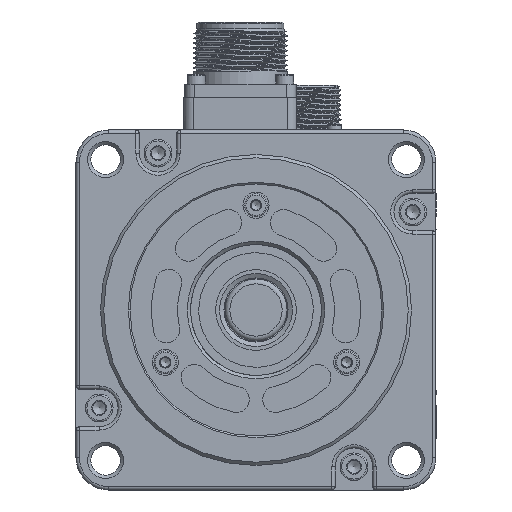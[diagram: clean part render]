
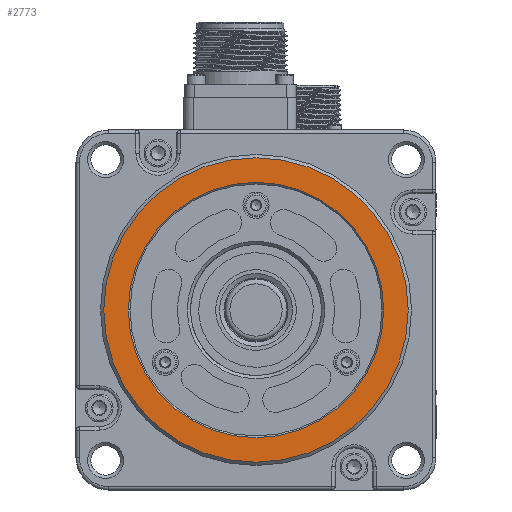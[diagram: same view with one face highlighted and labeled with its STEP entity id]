
A CAD part, front view. The second image highlights one B-rep face of the part: STEP entity #2773.
In plain terms, the highlighted planar face has unit normal (0, -1, 0).
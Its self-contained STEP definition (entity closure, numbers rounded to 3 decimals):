
#596=FACE_BOUND('',#5891,.T.);
#597=FACE_BOUND('',#5892,.T.);
#1865=PLANE('',#23850);
#2773=ADVANCED_FACE('',(#596,#597),#1865,.T.);
#5891=EDGE_LOOP('',(#10790));
#5892=EDGE_LOOP('',(#10791));
#7590=CIRCLE('',#23848,39.);
#7591=CIRCLE('',#23849,46.5);
#10790=ORIENTED_EDGE('',*,*,#18151,.T.);
#10791=ORIENTED_EDGE('',*,*,#18152,.T.);
#15682=VERTEX_POINT('',#38466);
#15683=VERTEX_POINT('',#38468);
#18151=EDGE_CURVE('',#15682,#15682,#7590,.T.);
#18152=EDGE_CURVE('',#15683,#15683,#7591,.T.);
#23848=AXIS2_PLACEMENT_3D('',#38465,#27966,#27967);
#23849=AXIS2_PLACEMENT_3D('',#38467,#27968,#27969);
#23850=AXIS2_PLACEMENT_3D('',#38469,#27970,#27971);
#27966=DIRECTION('',(0.,1.,0.));
#27967=DIRECTION('',(1.,0.,0.));
#27968=DIRECTION('',(0.,-1.,0.));
#27969=DIRECTION('',(1.,0.,0.));
#27970=DIRECTION('',(0.,-1.,0.));
#27971=DIRECTION('',(-1.,0.,0.));
#38465=CARTESIAN_POINT('',(55.124,-65.878,-91.192));
#38466=CARTESIAN_POINT('',(94.124,-65.878,-91.192));
#38467=CARTESIAN_POINT('',(55.124,-65.878,-91.192));
#38468=CARTESIAN_POINT('',(101.624,-65.878,-91.192));
#38469=CARTESIAN_POINT('',(55.124,-65.878,-91.192));
